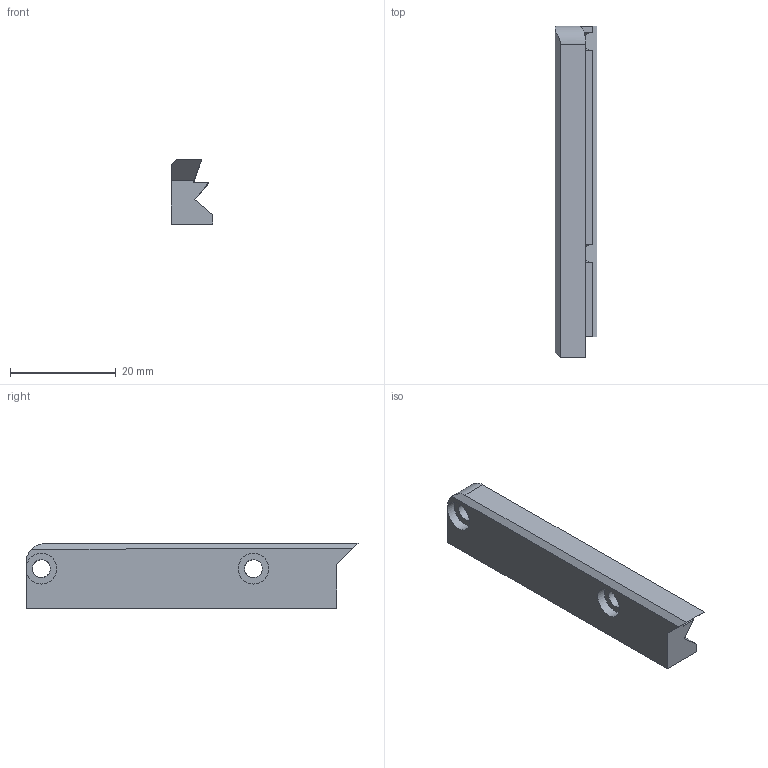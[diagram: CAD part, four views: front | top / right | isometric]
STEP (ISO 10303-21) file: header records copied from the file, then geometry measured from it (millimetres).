
FILE_DESCRIPTION(('HOOPS Exchange Step'),'2;1');
FILE_NAME('/private/var/mobile/Containers/Data/Application/4F40B09C-B543-4287-94D3-5CCF782DB2F4/tmp/export/temp_export','2026-06-06T11:38:50-05:00',('mobile'),('Shapr3D Limited'),'HOOPS Exchange 2026.3','Shapr3D','Authorized');
FILE_SCHEMA( ('AP242_MANAGED_MODEL_BASED_3D_ENGINEERING_MIM_LF {1 0 10303 442 1 1 4}') );
Length unit declared in the file: millimetre
Products named in the file (4): Compass; Compass stage clamp.step; Elec Housing; root
Assembly tree (3 placements, depth 4):
  root
    Elec Housing
      Compass stage clamp.step
        Compass
Bounding box: 7.9 x 62.85 x 12.36 mm (x, y, z)
Volume: 4083.9 mm3; surface area: 2809 mm2
Topology: 1 solids, 1 shells, 21 faces, 57 edges, 38 vertices
Faces by surface type: plane 16, cylinder 5
Full cylindrical faces by diameter (mm): 3.4 x2, 5.8 x2
Entity records: 777 total; most frequent: CARTESIAN_POINT 148, DIRECTION 114, ORIENTED_EDGE 114, EDGE_CURVE 57, VECTOR 42, LINE 42, VERTEX_POINT 38, AXIS2_PLACEMENT_3D 36
